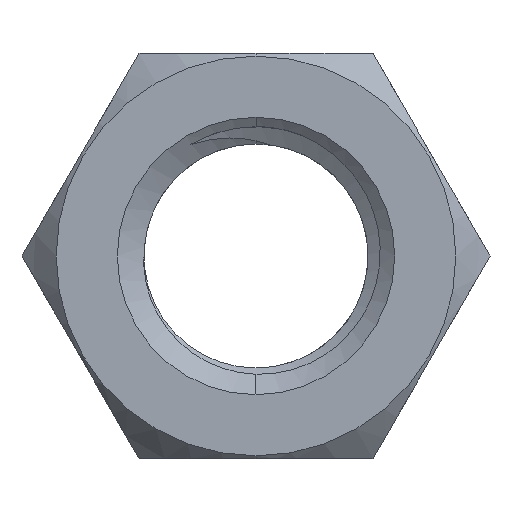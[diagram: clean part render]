
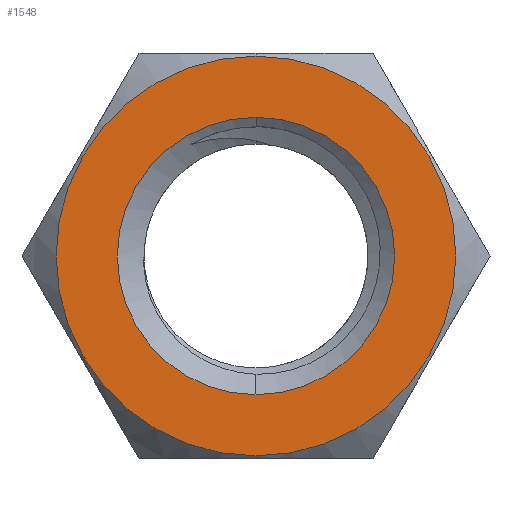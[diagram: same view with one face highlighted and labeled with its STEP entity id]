
A CAD part, front view. The second image highlights one B-rep face of the part: STEP entity #1548.
In plain terms, the highlighted planar face has unit normal (0, -1, 0).
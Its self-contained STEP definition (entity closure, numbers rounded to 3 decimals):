
#90 = EDGE_LOOP ( 'NONE', ( #1612, #845 ) ) ;
#267 = AXIS2_PLACEMENT_3D ( 'NONE', #2788, #850, #2404 ) ;
#314 = AXIS2_PLACEMENT_3D ( 'NONE', #958, #1196, #1162 ) ;
#411 = CARTESIAN_POINT ( 'NONE',  ( 0., -5., -9.37 ) ) ;
#454 = AXIS2_PLACEMENT_3D ( 'NONE', #577, #2030, #1823 ) ;
#468 = EDGE_CURVE ( 'NONE', #783, #2353, #993, .T. ) ;
#542 = CIRCLE ( 'NONE', #314, 9.37 ) ;
#577 = CARTESIAN_POINT ( 'NONE',  ( 0., -5., 0. ) ) ;
#722 = FACE_BOUND ( 'NONE', #2652, .T. ) ;
#754 = DIRECTION ( 'NONE',  ( 0., -1., 0. ) ) ;
#783 = VERTEX_POINT ( 'NONE', #411 ) ;
#793 = ORIENTED_EDGE ( 'NONE', *, *, #2689, .F. ) ;
#845 = ORIENTED_EDGE ( 'NONE', *, *, #468, .T. ) ;
#850 = DIRECTION ( 'NONE',  ( 0., 1., 0. ) ) ;
#958 = CARTESIAN_POINT ( 'NONE',  ( 0., -5., 0. ) ) ;
#993 = CIRCLE ( 'NONE', #1350, 9.37 ) ;
#1162 = DIRECTION ( 'NONE',  ( 0., 0., -1. ) ) ;
#1196 = DIRECTION ( 'NONE',  ( 0., -1., 0. ) ) ;
#1324 = FACE_OUTER_BOUND ( 'NONE', #90, .T. ) ;
#1350 = AXIS2_PLACEMENT_3D ( 'NONE', #1592, #1546, #2059 ) ;
#1358 = CIRCLE ( 'NONE', #454, 6.5 ) ;
#1503 = PLANE ( 'NONE',  #267 ) ;
#1546 = DIRECTION ( 'NONE',  ( 0., -1., 0. ) ) ;
#1548 = ADVANCED_FACE ( 'NONE', ( #722, #1324 ), #1503, .F. ) ;
#1592 = CARTESIAN_POINT ( 'NONE',  ( 0., -5., 0. ) ) ;
#1612 = ORIENTED_EDGE ( 'NONE', *, *, #2088, .T. ) ;
#1674 = VERTEX_POINT ( 'NONE', #1864 ) ;
#1684 = ORIENTED_EDGE ( 'NONE', *, *, #2123, .F. ) ;
#1784 = CIRCLE ( 'NONE', #1867, 6.5 ) ;
#1823 = DIRECTION ( 'NONE',  ( 0., 0., -1. ) ) ;
#1864 = CARTESIAN_POINT ( 'NONE',  ( 0., -5., -6.5 ) ) ;
#1867 = AXIS2_PLACEMENT_3D ( 'NONE', #2096, #754, #2714 ) ;
#2019 = VERTEX_POINT ( 'NONE', #2140 ) ;
#2030 = DIRECTION ( 'NONE',  ( 0., -1., 0. ) ) ;
#2059 = DIRECTION ( 'NONE',  ( 0., 0., -1. ) ) ;
#2088 = EDGE_CURVE ( 'NONE', #2353, #783, #542, .T. ) ;
#2096 = CARTESIAN_POINT ( 'NONE',  ( 0., -5., 0. ) ) ;
#2123 = EDGE_CURVE ( 'NONE', #2019, #1674, #1358, .T. ) ;
#2140 = CARTESIAN_POINT ( 'NONE',  ( 0., -5., 6.5 ) ) ;
#2353 = VERTEX_POINT ( 'NONE', #2502 ) ;
#2404 = DIRECTION ( 'NONE',  ( 0., 0., 1. ) ) ;
#2502 = CARTESIAN_POINT ( 'NONE',  ( 0., -5., 9.37 ) ) ;
#2652 = EDGE_LOOP ( 'NONE', ( #1684, #793 ) ) ;
#2689 = EDGE_CURVE ( 'NONE', #1674, #2019, #1784, .T. ) ;
#2714 = DIRECTION ( 'NONE',  ( 0., 0., -1. ) ) ;
#2788 = CARTESIAN_POINT ( 'NONE',  ( 0., -5., 0. ) ) ;
